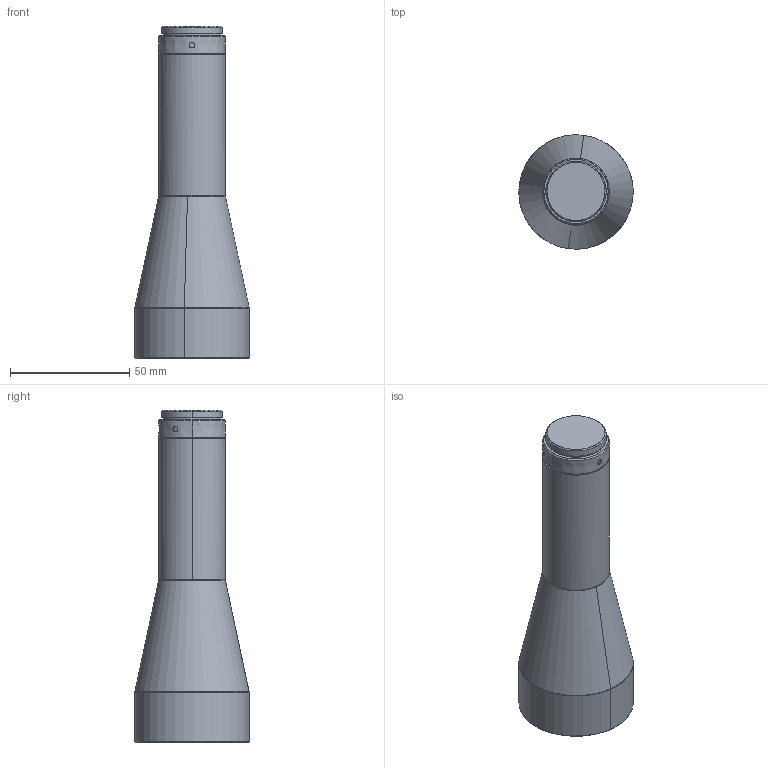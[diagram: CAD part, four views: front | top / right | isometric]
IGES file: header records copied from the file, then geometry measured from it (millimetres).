
Start section: SolidWorks IGES file using analytic representation for surfaces
Global section: file name: 6HD:\W\000-个人生产工作区\01-镜头\WWH\WWH03-110ATV3\发客户3D\零件6^WWH03_04-110ACTV3.IGS; native system: SolidWorks 2017; preprocessor: SolidWorks 2017; author: jg; date: 241031.141544; units: millimetre
Bounding box: 47.96 x 47.97 x 139.36 mm (x, y, z)
Surface area: 17885.7 mm2 (no closed solid volume)
Topology: 0 solids, 0 shells, 54 faces, 1148 edges, 1148 vertices
Faces by surface type: revolution 39, bspline 15
